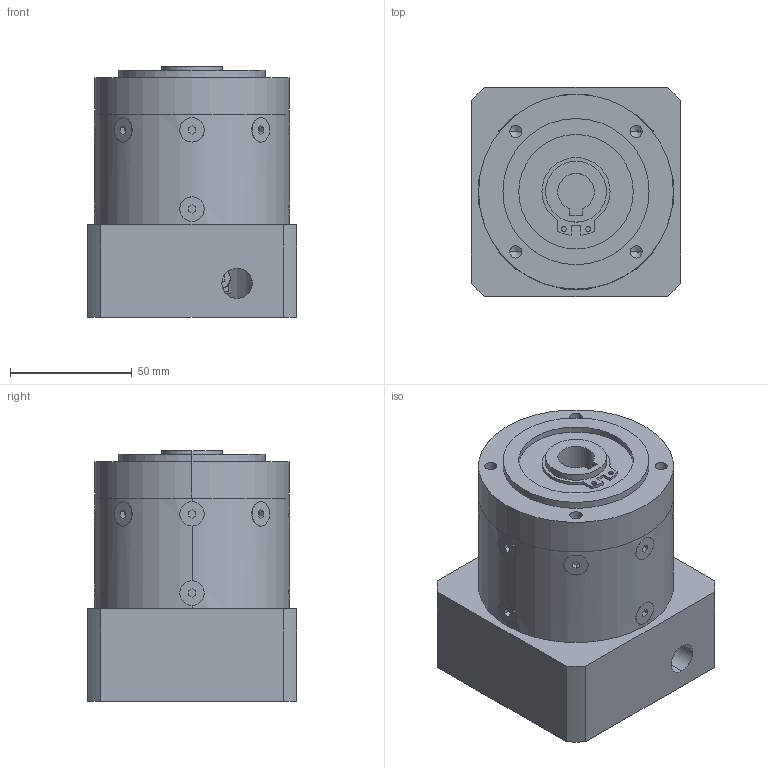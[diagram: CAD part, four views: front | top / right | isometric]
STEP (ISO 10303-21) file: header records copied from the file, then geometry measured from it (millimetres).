
FILE_DESCRIPTION (( 'STEP AP203' ), '1' );
FILE_NAME ('PBE80-L1-14-73-98.4.STEP', '2022-07-23T08:00:28', ( 'Windows User' ), ( 'P R C' ), 'SwSTEP 2.0', 'SolidWorks 2016', '' );
FILE_SCHEMA (( 'CONFIG_CONTROL_DESIGN' ));
Length unit declared in the file: millimetre
Products named in the file (7): PBE80 奻屳唳; PBE80 薊粣ん-14_D7-19 梓袧; PBE80 内齿圈-孔输出-B版_一级内齿圈; 囀鞠褒蹟佪-M5℅20; PBE80 蟀諉啣-73-M6-98.4; 粣創-6006 30x55x13; PBE80-L1-14-73-98.4
Assembly tree (6 placements, depth 2):
  PBE80-L1-14-73-98.4
    PBE80 奻屳唳
    PBE80 薊粣ん-14_D7-19 梓袧
    PBE80 内齿圈-孔输出-B版_一级内齿圈
    囀鞠褒蹟佪-M5℅20
    PBE80 蟀諉啣-73-M6-98.4
    粣創-6006 30x55x13
Bounding box: 86 x 86 x 103 mm (x, y, z)
Volume: 496480.1 mm3; surface area: 112351.1 mm2
Topology: 6 solids, 6 shells, 1104 faces, 2989 edges, 1965 vertices
Faces by surface type: plane 593, bspline 301, cylinder 182, cone 28
Entity records: 47451 total; most frequent: CARTESIAN_POINT 20961, ORIENTED_EDGE 5930, DIRECTION 4420, EDGE_CURVE 2965, VERTEX_POINT 1965, VECTOR 1550, LINE 1550, AXIS2_PLACEMENT_3D 1435
